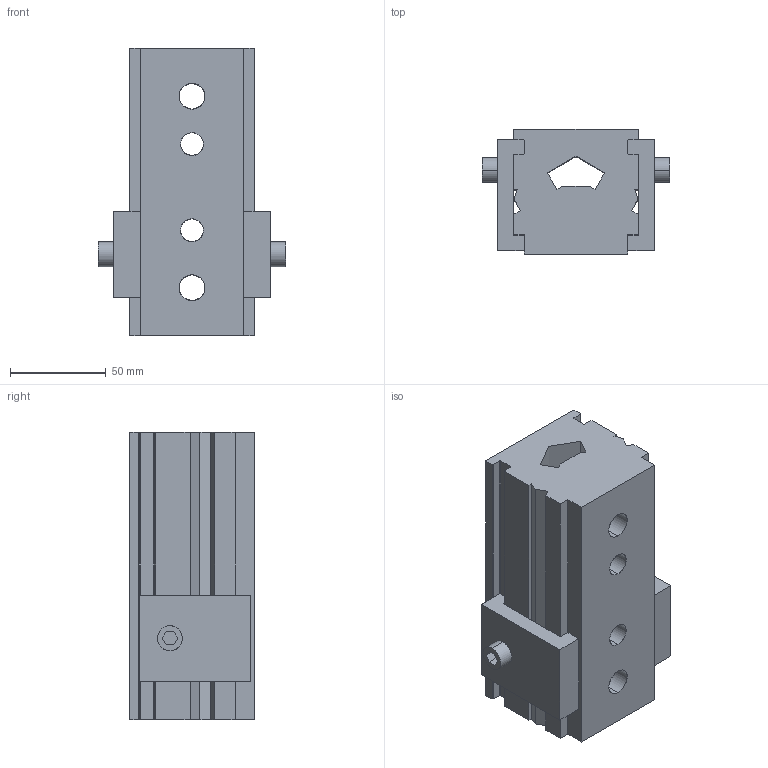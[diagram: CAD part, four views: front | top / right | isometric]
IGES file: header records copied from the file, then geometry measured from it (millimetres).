
Start section: START RECORD GO HERE.
Global section: file name: A945-03-0615-01-S-BC.igs; native system: DASSAULT SYSTEMES CATIA V5 R20 - www.3ds.com; preprocessor: CATIA Version 5 Release 20 ; author: Utente; organization: NB04-ASUS; date: 20200417.135652; units: millimetre
Bounding box: 98 x 65 x 150 mm (x, y, z)
Surface area: 75558.7 mm2 (no closed solid volume)
Topology: 0 solids, 0 shells, 121 faces, 682 edges, 682 vertices
Faces by surface type: extrusion 97, revolution 24
